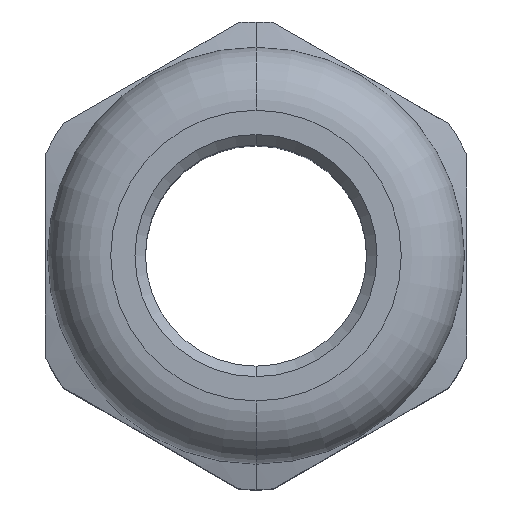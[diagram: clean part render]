
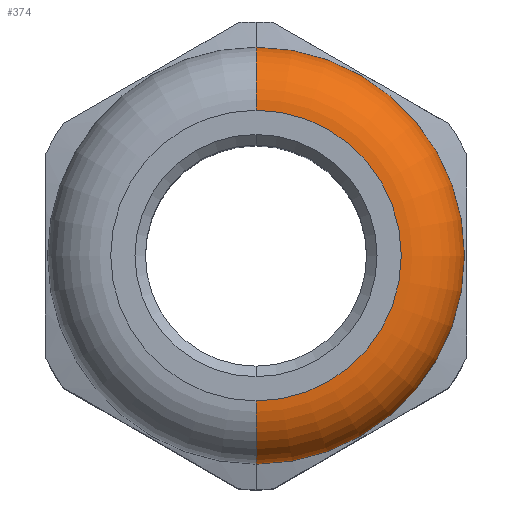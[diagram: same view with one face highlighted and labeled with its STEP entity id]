
A CAD part, top view. The second image highlights one B-rep face of the part: STEP entity #374.
In plain terms, the highlighted toroidal (fillet/blend) face has major radius 6.9 mm and minor radius 3 mm.
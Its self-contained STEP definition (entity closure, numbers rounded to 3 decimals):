
#330 = ORIENTED_EDGE ( 'NONE', *, *, #331, .F. ) ;
#331 = EDGE_CURVE ( 'NONE', #352, #379, #1484, .T. ) ;
#343 = EDGE_CURVE ( 'NONE', #353, #365, #1573, .T. ) ;
#344 = ORIENTED_EDGE ( 'NONE', *, *, #368, .F. ) ;
#345 = EDGE_LOOP ( 'NONE', ( #346, #354, #344, #330 ) ) ;
#346 = ORIENTED_EDGE ( 'NONE', *, *, #347, .T. ) ;
#347 = EDGE_CURVE ( 'NONE', #352, #353, #1558, .T. ) ;
#352 = VERTEX_POINT ( 'NONE', #1553 ) ;
#353 = VERTEX_POINT ( 'NONE', #1541 ) ;
#354 = ORIENTED_EDGE ( 'NONE', *, *, #343, .T. ) ;
#365 = VERTEX_POINT ( 'NONE', #1516 ) ;
#368 = EDGE_CURVE ( 'NONE', #379, #365, #1538, .T. ) ;
#374 = ADVANCED_FACE ( 'NONE', ( #1523 ), #1577, .T. ) ;
#379 = VERTEX_POINT ( 'NONE', #2710 ) ;
#1480 = DIRECTION ( 'NONE',  ( 0., 0., 1. ) ) ;
#1481 = DIRECTION ( 'NONE',  ( -1., 0., 0. ) ) ;
#1482 = CARTESIAN_POINT ( 'NONE',  ( 0., 6.9, 23. ) ) ;
#1483 = AXIS2_PLACEMENT_3D ( 'NONE', #1482, #1481, #1480 ) ;
#1484 = CIRCLE ( 'NONE', #1483, 3. ) ;
#1516 = CARTESIAN_POINT ( 'NONE',  ( 0., -9.9, 23. ) ) ;
#1523 = FACE_OUTER_BOUND ( 'NONE', #345, .T. ) ;
#1528 = CARTESIAN_POINT ( 'NONE',  ( 0., 0., 26. ) ) ;
#1533 = CARTESIAN_POINT ( 'NONE',  ( 0., 0., 23. ) ) ;
#1534 = AXIS2_PLACEMENT_3D ( 'NONE', #1533, #1565, #1564 ) ;
#1538 = CIRCLE ( 'NONE', #1534, 9.9 ) ;
#1541 = CARTESIAN_POINT ( 'NONE',  ( 0., -6.9, 26. ) ) ;
#1553 = CARTESIAN_POINT ( 'NONE',  ( 0., 6.9, 26. ) ) ;
#1555 = DIRECTION ( 'NONE',  ( 0., 1., 0. ) ) ;
#1556 = DIRECTION ( 'NONE',  ( 0., 0., -1. ) ) ;
#1557 = AXIS2_PLACEMENT_3D ( 'NONE', #1528, #1556, #1555 ) ;
#1558 = CIRCLE ( 'NONE', #1557, 6.9 ) ;
#1564 = DIRECTION ( 'NONE',  ( 0., 1., 0. ) ) ;
#1565 = DIRECTION ( 'NONE',  ( 0., 0., -1. ) ) ;
#1572 = AXIS2_PLACEMENT_3D ( 'NONE', #1576, #1575, #1574 ) ;
#1573 = CIRCLE ( 'NONE', #1572, 3. ) ;
#1574 = DIRECTION ( 'NONE',  ( 0., 1., 0. ) ) ;
#1575 = DIRECTION ( 'NONE',  ( 1., 0., 0. ) ) ;
#1576 = CARTESIAN_POINT ( 'NONE',  ( 0., -6.9, 23. ) ) ;
#1577 = TOROIDAL_SURFACE ( 'NONE', #1580, 6.9, 3. ) ;
#1578 = CARTESIAN_POINT ( 'NONE',  ( 0., 0., 23. ) ) ;
#1579 = DIRECTION ( 'NONE',  ( 0., 0., -1. ) ) ;
#1580 = AXIS2_PLACEMENT_3D ( 'NONE', #1578, #1579, #1583 ) ;
#1583 = DIRECTION ( 'NONE',  ( 0., 1., 0. ) ) ;
#2710 = CARTESIAN_POINT ( 'NONE',  ( 0., 9.9, 23. ) ) ;
